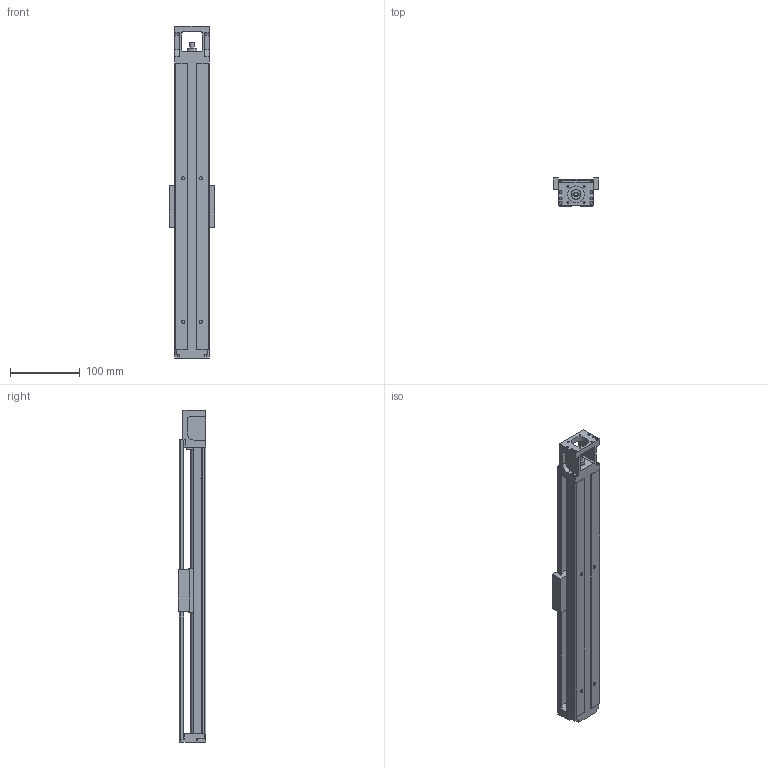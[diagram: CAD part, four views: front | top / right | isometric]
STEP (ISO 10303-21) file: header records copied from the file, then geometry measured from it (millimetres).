
FILE_DESCRIPTION (( 'STEP AP203' ), '1' );
FILE_NAME ('GSX50C-300-LL1210-P7.STEP', '2013-11-02T01:47:37', ( '微软用户' ), ( '微软中国' ), 'SwSTEP 2.0', 'SolidWorks 2010', '' );
FILE_SCHEMA (( 'CONFIG_CONTROL_DESIGN' ));
Length unit declared in the file: millimetre
Products named in the file (1): GSX50C-300-LL1210-P7
Bounding box: 65 x 40 x 475 mm (x, y, z)
Volume: 407865.3 mm3; surface area: 167771 mm2
Topology: 3 solids, 8 shells, 377 faces, 977 edges, 610 vertices
Faces by surface type: plane 170, cylinder 159, cone 48
Entity records: 11370 total; most frequent: DIRECTION 2005, CARTESIAN_POINT 1973, ORIENTED_EDGE 1866, EDGE_CURVE 933, AXIS2_PLACEMENT_3D 706, VERTEX_POINT 610, VECTOR 593, LINE 593
